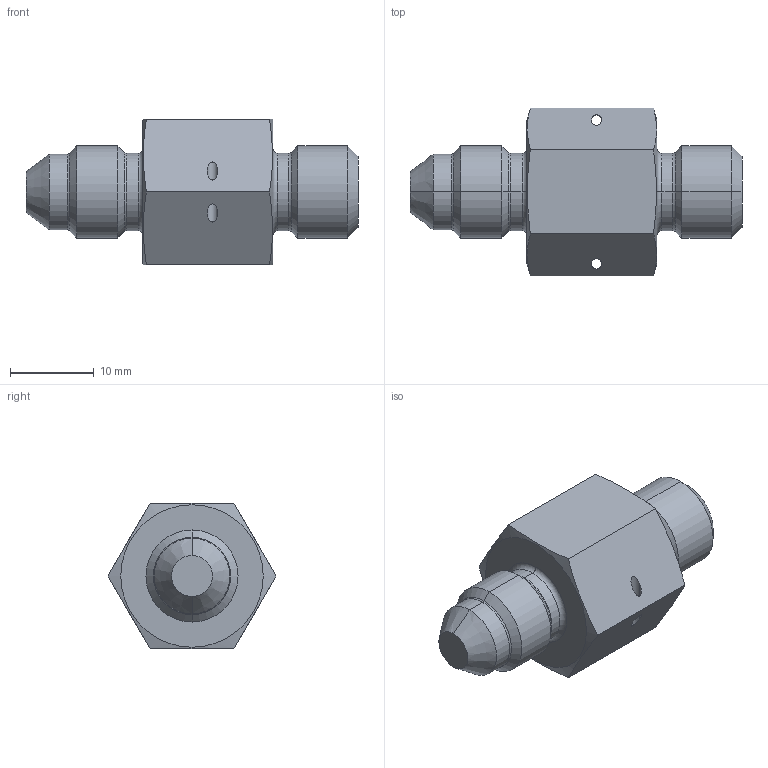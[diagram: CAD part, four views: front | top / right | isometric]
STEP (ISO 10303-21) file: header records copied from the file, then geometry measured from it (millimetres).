
FILE_DESCRIPTION (( 'STEP AP214' ), '1' );
FILE_NAME ('3DCSLX0517400B FITTING.STEP', '2024-09-30T18:08:11', ( '' ), ( '' ), 'SwSTEP 2.0', 'SolidWorks 2023', '' );
FILE_SCHEMA (( 'AUTOMOTIVE_DESIGN' ));
Length unit declared in the file: inch
Products named in the file (1): 3DCSLX0517400B FITTING
Bounding box: 39.67 x 20.08 x 17.39 mm (x, y, z)
Volume: 5938.9 mm3; surface area: 2212.8 mm2
Topology: 1 solids, 1 shells, 48 faces, 106 edges, 62 vertices
Faces by surface type: cylinder 14, cone 14, torus 10, plane 10
Entity records: 1409 total; most frequent: CARTESIAN_POINT 337, DIRECTION 228, ORIENTED_EDGE 212, EDGE_CURVE 106, AXIS2_PLACEMENT_3D 97, VERTEX_POINT 62, EDGE_LOOP 54, CIRCLE 48
